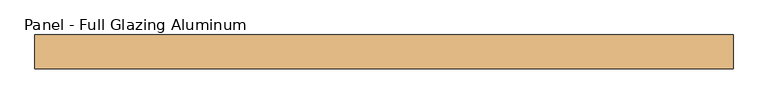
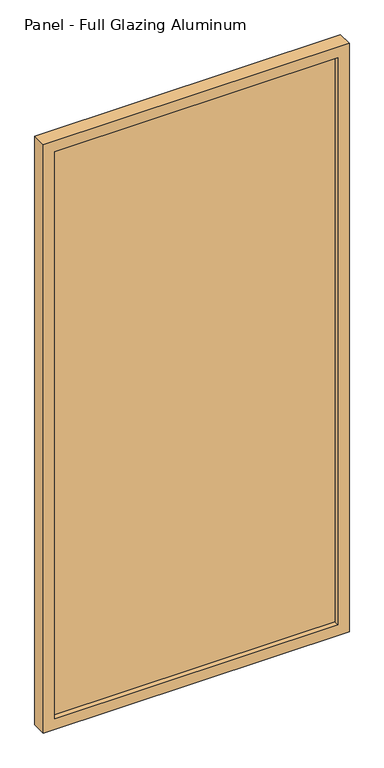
"""IFC4 building model written with IfcOpenShell, lengths in millimetres: door geometry, BP_DR_SP_Panel-Single-Glass : Panel - Full Glazing Aluminum."""

import ifcopenshell
import ifcopenshell.guid

model = None  # the IFC model being written
_history = None  # IfcOwnerHistory: only IFC2X3 demands one
_inside = {}  # id of a spatial element -> (the spatial element, [elements in it])
_under = {}  # id of a project, library or spatial element -> (it, [spatial elements below it])
_declared = {}  # id of a project -> (the project, [libraries it declares])
_typed = {}  # id of a type object -> (the type object, [elements of that type])
_made_of = {}  # id of a material, layer set ... -> (it, [elements and type objects made of it])


def new_model(schema):
    """Start an empty IFC model of exactly this schema.

    Asked for "IFC4X3", IfcOpenShell would pick the latest addendum, in which some entities
    have other attributes; the version numbers below select the first issue.
    IFC2X3 requires an IfcOwnerHistory on every rooted entity: one is made here for all.
    """
    global model, _history
    if schema == "IFC4X3":
        model = ifcopenshell.file(schema_version=(4, 3, 0, 0))
    else:
        model = ifcopenshell.file(schema=schema)
    _inside.clear()
    _under.clear()
    _declared.clear()
    _typed.clear()
    _made_of.clear()
    _history = None
    if model.schema == "IFC2X3":
        org = make("IfcOrganization", Name="unknown")
        user = make(
            "IfcPersonAndOrganization",
            ThePerson=make("IfcPerson", FamilyName="unknown"),
            TheOrganization=org,
        )
        app = make(
            "IfcApplication",
            ApplicationDeveloper=org,
            Version="unknown",
            ApplicationFullName="unknown",
            ApplicationIdentifier="unknown",
        )
        _history = make(
            "IfcOwnerHistory",
            OwningUser=user,
            OwningApplication=app,
            ChangeAction="ADDED",
            CreationDate=0,
        )
    return model


def make(cls, **values):
    """One entity of the class cls with the attributes given. An attribute that is None is left unset."""
    return model.create_entity(
        cls, **{name: value for name, value in values.items() if value is not None}
    )


def rooted(cls, **values):
    """An entity with a GlobalId (a new one), such as an element, a storey or a relation."""
    return make(cls, GlobalId=ifcopenshell.guid.new(), OwnerHistory=_history, **values)


def si_unit(unit_type, name, prefix=None):
    """IfcSIUnit, for example si_unit("LENGTHUNIT", "METRE", prefix="MILLI")."""
    return make("IfcSIUnit", UnitType=unit_type, Prefix=prefix, Name=name)


def assignment(units):
    """IfcUnitAssignment: the units of a project."""
    return None if units is None else make("IfcUnitAssignment", Units=units)


def point(xyz):
    """IfcCartesianPoint."""
    return None if xyz is None else make("IfcCartesianPoint", Coordinates=xyz)


def direction(xyz):
    """IfcDirection."""
    return None if xyz is None else make("IfcDirection", DirectionRatios=xyz)


def frame(location, z_axis=None, x_axis=None):
    """IfcAxis2Placement3D, a coordinate frame: its origin and axes. An axis left out is left unset."""
    return make(
        "IfcAxis2Placement3D",
        Location=point(location),
        Axis=direction(z_axis),
        RefDirection=direction(x_axis),
    )


def origin():
    """The frame at (0, 0, 0) with its axes left unset."""
    return frame((0.0, 0.0, 0.0))


def place(relative_to, where):
    """IfcLocalPlacement: puts the frame where relative to a parent placement (None: the world)."""
    return make(
        "IfcLocalPlacement", PlacementRelTo=relative_to, RelativePlacement=where
    )


def context(
    kind, dimensions, precision=None, world=None, true_north=None, identifier=None
):
    """IfcGeometricRepresentationContext, for example the 3D "Model" context."""
    return make(
        "IfcGeometricRepresentationContext",
        ContextIdentifier=identifier,
        ContextType=kind,
        CoordinateSpaceDimension=dimensions,
        Precision=precision,
        WorldCoordinateSystem=world,
        TrueNorth=true_north,
    )


def project(units=None, contexts=None):
    """IfcProject with its units and contexts."""
    return rooted(
        "IfcProject",
        Name="project",
        RepresentationContexts=contexts,
        UnitsInContext=assignment(units),
    )


def spatial(cls, under=None, at=None, **own):
    """A site, building, storey or space (cls), placed at a placement, below another one or the project."""
    s = rooted(cls, ObjectPlacement=at, **own)
    if under is not None:
        _under.setdefault(under.id(), (under, []))[1].append(s)
    return s


def polyline(points):
    """IfcPolyline through the points."""
    return make("IfcPolyline", Points=[point(p) for p in points])


def outline(outer, holes=None, kind="AREA"):
    """IfcArbitraryClosedProfileDef: a profile drawn as a closed curve; with holes, ...WithVoids."""
    if holes is None:
        return make("IfcArbitraryClosedProfileDef", ProfileType=kind, OuterCurve=outer)
    return make(
        "IfcArbitraryProfileDefWithVoids",
        ProfileType=kind,
        OuterCurve=outer,
        InnerCurves=holes,
    )


def extrude(swept, where, along, depth):
    """IfcExtrudedAreaSolid: the profile swept, set in the frame where, extruded along a direction by depth."""
    return make(
        "IfcExtrudedAreaSolid",
        SweptArea=swept,
        Position=where,
        ExtrudedDirection=direction(along),
        Depth=depth,
    )


def shape(context_of_items, identifier, shape_type, items):
    """IfcShapeRepresentation: the items that make up one representation, for example the "Body"."""
    return make(
        "IfcShapeRepresentation",
        ContextOfItems=context_of_items,
        RepresentationIdentifier=identifier,
        RepresentationType=shape_type,
        Items=items,
    )


def source(mapping_origin, context_of_items, identifier, shape_type, items):
    """IfcRepresentationMap: a shape defined once, which mapped items show again and again."""
    return make(
        "IfcRepresentationMap",
        MappingOrigin=mapping_origin,
        MappedRepresentation=shape(context_of_items, identifier, shape_type, items),
    )


def transform(
    local_origin,
    x_axis=None,
    y_axis=None,
    z_axis=None,
    scale=None,
    scale2=None,
    scale3=None,
    uniform=True,
):
    """IfcCartesianTransformationOperator3D, or its non-uniform kind. x_axis, y_axis, z_axis: its Axis1, 2, 3."""
    if uniform:
        return make(
            "IfcCartesianTransformationOperator3D",
            Axis1=direction(x_axis),
            Axis2=direction(y_axis),
            LocalOrigin=point(local_origin),
            Scale=scale,
            Axis3=direction(z_axis),
        )
    return make(
        "IfcCartesianTransformationOperator3DnonUniform",
        Axis1=direction(x_axis),
        Axis2=direction(y_axis),
        LocalOrigin=point(local_origin),
        Scale=scale,
        Axis3=direction(z_axis),
        Scale2=scale2,
        Scale3=scale3,
    )


def mapped(mapping_source, mapping_target):
    """IfcMappedItem: shows the shape of a source again, moved by a transform."""
    return make(
        "IfcMappedItem", MappingSource=mapping_source, MappingTarget=mapping_target
    )


def made_of(thing, what):
    """Note that an element or type object is made of a material, layer set ...; save() writes the relation."""
    if what is not None:
        _made_of.setdefault(what.id(), (what, []))[1].append(thing)
    return thing


def element(
    cls,
    number,
    at=None,
    inside=None,
    cuts=None,
    type_object=None,
    material=None,
    context=None,
    identifier="Body",
    shape_type=None,
    held_by="IfcProductDefinitionShape",
    body=None,
    shapes=None,
    **own,
):
    """One element of the class cls, such as IfcWall. Its Tag is "e" and its number.

    at: its placement. inside: the storey or other place that contains it. cuts: it is an
    opening in that element (IfcRelVoidsElement). A single representation is given by context,
    identifier, shape_type and body (its items); several are given by shapes. held_by: the class
    of the entity that holds the representations. save() writes the other relations.
    """
    e = rooted(cls, Tag="e%d" % number, ObjectPlacement=at, **own)
    if body is not None:
        shapes = [shape(context, identifier, shape_type, body)]
    if shapes is not None:
        e.Representation = make(held_by, Representations=shapes)
    if inside is not None:
        _inside.setdefault(inside.id(), (inside, []))[1].append(e)
    if cuts is not None:
        rooted(
            "IfcRelVoidsElement", RelatingBuildingElement=cuts, RelatedOpeningElement=e
        )
    if type_object is not None:
        _typed.setdefault(type_object.id(), (type_object, []))[1].append(e)
    return made_of(e, material)


def aggregate(whole, parts):
    """IfcRelAggregates: a whole, such as a stair, and the parts it consists of."""
    return rooted("IfcRelAggregates", RelatingObject=whole, RelatedObjects=parts)


def save(model, path):
    """Write the relations noted so far, then the file.

    IfcRelAggregates (storeys below a building ...), IfcRelContainedInSpatialStructure (elements
    in a storey), IfcRelDefinesByType, IfcRelAssociatesMaterial and IfcRelDeclares: one each for
    every whole, place, type object, material and project.
    """
    for whole, parts in _under.values():
        aggregate(whole, parts)
    for where, things in _inside.values():
        rooted(
            "IfcRelContainedInSpatialStructure",
            RelatedElements=things,
            RelatingStructure=where,
        )
    for kind, things in _typed.values():
        rooted("IfcRelDefinesByType", RelatedObjects=things, RelatingType=kind)
    for what, things in _made_of.values():
        rooted("IfcRelAssociatesMaterial", RelatedObjects=things, RelatingMaterial=what)
    for by, libraries in _declared.values():
        rooted("IfcRelDeclares", RelatingContext=by, RelatedDefinitions=libraries)
    model.write(path)


def panel_full_glazing_aluminum_9a99f02d(model_context):
    return source(origin(), model_context, "Body", "SweptSolid", [
        extrude(outline(polyline([(486.8333333, -6.35), (-486.8333333, -6.35), (-486.8333333, 6.35), (486.8333333, 6.35), (486.8333333, -6.35)])), frame((0.0, 0.0, 38.1), z_axis=(0.0, 0.0, 1.0), x_axis=(1.0, 0.0, 0.0)), (0.0, 0.0, 1.0), 2057.4),
        extrude(outline(polyline([(2133.6, 524.9333333), (2133.6, -524.9333333), (0.0, -524.9333333), (0.0, 524.9333333), (2133.6, 524.9333333)]), holes=[polyline([(2095.5, 486.8333333), (38.1, 486.8333333), (38.1, -486.8333333), (2095.5, -486.8333333), (2095.5, 486.8333333)])]), frame((0.0, -25.4, 0.0), z_axis=(0.0, 1.0, 0.0), x_axis=(0.0, 0.0, 1.0)), (0.0, 0.0, 1.0), 50.8),
    ])


if __name__ == "__main__":
    model = new_model("IFC4")
    model_context = context("Model", 3, world=origin())
    ifc_project = project(units=[si_unit("LENGTHUNIT", "METRE", prefix="MILLI")], contexts=[model_context])
    site = spatial("IfcSite", under=ifc_project)
    building = spatial("IfcBuilding", under=site)
    placement = place(None, origin())
    panel_full_glazing_aluminum_shape = panel_full_glazing_aluminum_9a99f02d(model_context)
    element("IfcDoor", 1, ObjectType="BP_DR_SP_Panel-Single-Glass : Panel - Full Glazing Aluminum", at=placement, inside=building, context=model_context, shape_type="MappedRepresentation", body=[
        mapped(panel_full_glazing_aluminum_shape, transform((0.0, 0.0, 0.0), x_axis=(1.0, 0.0, 0.0), y_axis=(0.0, 1.0, 0.0), z_axis=(0.0, 0.0, 1.0))),
    ])
    save(model, "model.ifc")
